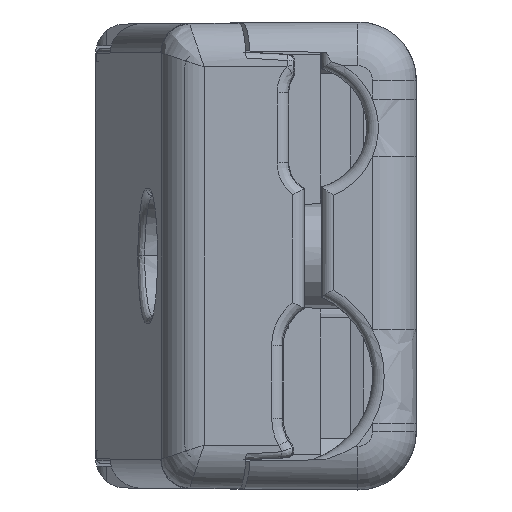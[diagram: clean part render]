
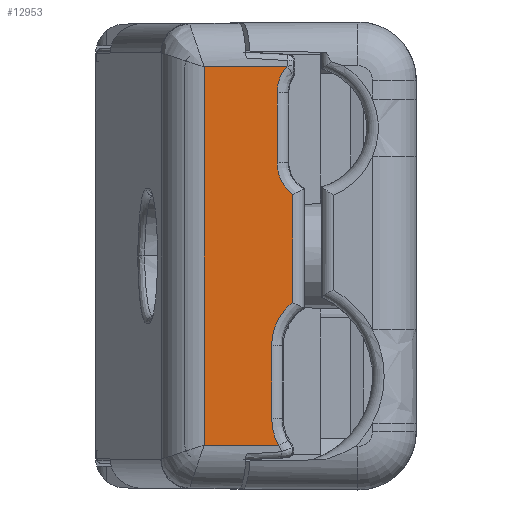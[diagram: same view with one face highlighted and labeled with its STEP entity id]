
A CAD part, left-side view. The second image highlights one B-rep face of the part: STEP entity #12953.
In plain terms, the highlighted planar face has unit normal (-1, 0.009, 0) as drawn and (0, 0.009, -1) by its records, which use the part's own axes.
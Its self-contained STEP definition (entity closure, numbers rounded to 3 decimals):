
#945 = ORIENTED_EDGE ( 'NONE', *, *, #96952, .T. ) ;
#2914 = CARTESIAN_POINT ( 'NONE',  ( 13.02, -7.809, -20.235 ) ) ;
#3897 = LINE ( 'NONE', #71917, #69961 ) ;
#4650 = CARTESIAN_POINT ( 'NONE',  ( -6.4, -7.686, -20.234 ) ) ;
#4901 = CARTESIAN_POINT ( 'NONE',  ( 3.188, -8.748, -20.243 ) ) ;
#4978 = DIRECTION ( 'NONE',  ( 0., 0.009, -1. ) ) ;
#5295 = VECTOR ( 'NONE', #8590, 1000. ) ;
#5741 =( BOUNDED_CURVE ( )  B_SPLINE_CURVE ( 3, ( #40387, #102935, #58488, #4650 ),
 .UNSPECIFIED., .F., .F. ) 
 B_SPLINE_CURVE_WITH_KNOTS ( ( 4, 4 ),
 ( 2.242, 3.142 ),
 .UNSPECIFIED. ) 
 CURVE ( )  GEOMETRIC_REPRESENTATION_ITEM ( )  RATIONAL_B_SPLINE_CURVE ( ( 1., 0.934, 0.934, 1. ) ) 
 REPRESENTATION_ITEM ( '' )  );
#5837 = EDGE_CURVE ( 'NONE', #64869, #40263, #3897, .T. ) ;
#6697 = EDGE_CURVE ( 'NONE', #67425, #49825, #112043, .T. ) ;
#6928 = EDGE_CURVE ( 'NONE', #107639, #112058, #20645, .T. ) ;
#8590 = DIRECTION ( 'NONE',  ( 0.009, -1., -0.009 ) ) ;
#8667 = CARTESIAN_POINT ( 'NONE',  ( 4.978, -7.312, -20.23 ) ) ;
#9182 = VERTEX_POINT ( 'NONE', #72600 ) ;
#12598 = EDGE_CURVE ( 'NONE', #112058, #112233, #107175, .T. ) ;
#12953 = ADVANCED_FACE ( 'NONE', ( #66269 ), #85919, .T. ) ;
#13932 =( BOUNDED_CURVE ( )  B_SPLINE_CURVE ( 3, ( #107355, #8667, #80559, #26774 ),
 .UNSPECIFIED., .F., .F. ) 
 B_SPLINE_CURVE_WITH_KNOTS ( ( 4, 4 ),
 ( 3.142, 4.036 ),
 .UNSPECIFIED. ) 
 CURVE ( )  GEOMETRIC_REPRESENTATION_ITEM ( )  RATIONAL_B_SPLINE_CURVE ( ( 1., 0.934, 0.934, 1. ) ) 
 REPRESENTATION_ITEM ( '' )  );
#14996 = ORIENTED_EDGE ( 'NONE', *, *, #12598, .T. ) ;
#15037 = CARTESIAN_POINT ( 'NONE',  ( -11.2, -7.686, -20.234 ) ) ;
#18299 = EDGE_CURVE ( 'NONE', #112233, #64869, #13932, .T. ) ;
#20645 =( BOUNDED_CURVE ( )  B_SPLINE_CURVE ( 3, ( #2914, #83429, #38623, #65760 ),
 .UNSPECIFIED., .F., .F. ) 
 B_SPLINE_CURVE_WITH_KNOTS ( ( 4, 4 ),
 ( 2.627, 3.142 ),
 .UNSPECIFIED. ) 
 CURVE ( )  GEOMETRIC_REPRESENTATION_ITEM ( )  RATIONAL_B_SPLINE_CURVE ( ( 1., 0.978, 0.978, 1. ) ) 
 REPRESENTATION_ITEM ( '' )  );
#20822 = CARTESIAN_POINT ( 'NONE',  ( -12.975, -2.676, -20.19 ) ) ;
#21159 = ORIENTED_EDGE ( 'NONE', *, *, #62210, .T. ) ;
#21667 = EDGE_CURVE ( 'NONE', #36175, #9182, #95415, .T. ) ;
#26774 = CARTESIAN_POINT ( 'NONE',  ( 3.188, -8.748, -20.243 ) ) ;
#26785 = ORIENTED_EDGE ( 'NONE', *, *, #108660, .T. ) ;
#28656 = CARTESIAN_POINT ( 'NONE',  ( -4.208, -8.748, -20.243 ) ) ;
#30555 = VECTOR ( 'NONE', #55358, 1000. ) ;
#35359 = VECTOR ( 'NONE', #95169, 1000. ) ;
#36175 = VERTEX_POINT ( 'NONE', #20822 ) ;
#38464 = ORIENTED_EDGE ( 'NONE', *, *, #18299, .T. ) ;
#38623 = CARTESIAN_POINT ( 'NONE',  ( 11.809, -7.312, -20.23 ) ) ;
#40092 = CARTESIAN_POINT ( 'NONE',  ( -11.877, -7.686, -20.234 ) ) ;
#40263 = VERTEX_POINT ( 'NONE', #28656 ) ;
#40387 = CARTESIAN_POINT ( 'NONE',  ( -4.208, -8.748, -20.243 ) ) ;
#43267 = CARTESIAN_POINT ( 'NONE',  ( 13.02, -7.809, -20.235 ) ) ;
#46349 =( BOUNDED_CURVE ( )  B_SPLINE_CURVE ( 3, ( #66824, #40092, #112046, #58191 ),
 .UNSPECIFIED., .F., .F. ) 
 B_SPLINE_CURVE_WITH_KNOTS ( ( 4, 4 ),
 ( 3.142, 3.851 ),
 .UNSPECIFIED. ) 
 CURVE ( )  GEOMETRIC_REPRESENTATION_ITEM ( )  RATIONAL_B_SPLINE_CURVE ( ( 1., 0.958, 0.958, 1. ) ) 
 REPRESENTATION_ITEM ( '' )  );
#47721 = CARTESIAN_POINT ( 'NONE',  ( -11.841, -2.676, -20.19 ) ) ;
#48686 = ORIENTED_EDGE ( 'NONE', *, *, #21667, .T. ) ;
#49825 = VERTEX_POINT ( 'NONE', #15037 ) ;
#50125 = CARTESIAN_POINT ( 'NONE',  ( 6.15, -7.312, -20.23 ) ) ;
#52062 = DIRECTION ( 'NONE',  ( -1., 0., 0. ) ) ;
#53043 = CARTESIAN_POINT ( 'NONE',  ( -13.024, -8.365, -20.24 ) ) ;
#54483 = LINE ( 'NONE', #100188, #30555 ) ;
#55358 = DIRECTION ( 'NONE',  ( 0.009, 1., 0.009 ) ) ;
#57615 = ORIENTED_EDGE ( 'NONE', *, *, #6697, .T. ) ;
#58191 = CARTESIAN_POINT ( 'NONE',  ( -13.024, -8.365, -20.24 ) ) ;
#58359 = VERTEX_POINT ( 'NONE', #53043 ) ;
#58481 = CARTESIAN_POINT ( 'NONE',  ( -6.4, -7.686, -20.234 ) ) ;
#58488 = CARTESIAN_POINT ( 'NONE',  ( -5.531, -7.686, -20.234 ) ) ;
#58941 = ORIENTED_EDGE ( 'NONE', *, *, #104145, .T. ) ;
#62210 = EDGE_CURVE ( 'NONE', #9182, #107639, #76965, .T. ) ;
#64869 = VERTEX_POINT ( 'NONE', #4901 ) ;
#65760 = CARTESIAN_POINT ( 'NONE',  ( 11.15, -7.312, -20.23 ) ) ;
#66269 = FACE_OUTER_BOUND ( 'NONE', #116277, .T. ) ;
#66824 = CARTESIAN_POINT ( 'NONE',  ( -11.2, -7.686, -20.234 ) ) ;
#67425 = VERTEX_POINT ( 'NONE', #58481 ) ;
#68377 = CARTESIAN_POINT ( 'NONE',  ( -11.841, -7.312, -20.23 ) ) ;
#69961 = VECTOR ( 'NONE', #88811, 1000. ) ;
#71467 = VECTOR ( 'NONE', #110635, 1000. ) ;
#71917 = CARTESIAN_POINT ( 'NONE',  ( -4.668, -8.748, -20.243 ) ) ;
#72600 = CARTESIAN_POINT ( 'NONE',  ( 12.975, -2.676, -20.19 ) ) ;
#76859 = CARTESIAN_POINT ( 'NONE',  ( -11.841, -9.555, -20.25 ) ) ;
#76965 = LINE ( 'NONE', #107287, #5295 ) ;
#79712 = ORIENTED_EDGE ( 'NONE', *, *, #6928, .T. ) ;
#80559 = CARTESIAN_POINT ( 'NONE',  ( 3.921, -7.824, -20.235 ) ) ;
#82326 = AXIS2_PLACEMENT_3D ( 'NONE', #76859, #4978, #95023 ) ;
#83429 = CARTESIAN_POINT ( 'NONE',  ( 12.446, -7.482, -20.232 ) ) ;
#85919 = PLANE ( 'NONE',  #82326 ) ;
#88105 = VECTOR ( 'NONE', #52062, 1000. ) ;
#88811 = DIRECTION ( 'NONE',  ( -1., 0., 0. ) ) ;
#95023 = DIRECTION ( 'NONE',  ( 0., 1., 0.009 ) ) ;
#95169 = DIRECTION ( 'NONE',  ( -1., 0., 0. ) ) ;
#95415 = LINE ( 'NONE', #47721, #71467 ) ;
#96376 = CARTESIAN_POINT ( 'NONE',  ( 11.15, -7.312, -20.23 ) ) ;
#96952 = EDGE_CURVE ( 'NONE', #49825, #58359, #46349, .T. ) ;
#100188 = CARTESIAN_POINT ( 'NONE',  ( -12.97, -2.071, -20.185 ) ) ;
#101964 = ORIENTED_EDGE ( 'NONE', *, *, #5837, .T. ) ;
#102935 = CARTESIAN_POINT ( 'NONE',  ( -4.748, -8.065, -20.237 ) ) ;
#104145 = EDGE_CURVE ( 'NONE', #40263, #67425, #5741, .T. ) ;
#105917 = CARTESIAN_POINT ( 'NONE',  ( -11.841, -7.686, -20.234 ) ) ;
#107175 = LINE ( 'NONE', #68377, #35359 ) ;
#107287 = CARTESIAN_POINT ( 'NONE',  ( 13.033, -9.338, -20.248 ) ) ;
#107355 = CARTESIAN_POINT ( 'NONE',  ( 6.15, -7.312, -20.23 ) ) ;
#107639 = VERTEX_POINT ( 'NONE', #43267 ) ;
#108660 = EDGE_CURVE ( 'NONE', #58359, #36175, #54483, .T. ) ;
#110635 = DIRECTION ( 'NONE',  ( 1., 0., 0. ) ) ;
#112043 = LINE ( 'NONE', #105917, #88105 ) ;
#112046 = CARTESIAN_POINT ( 'NONE',  ( -12.511, -7.922, -20.236 ) ) ;
#112058 = VERTEX_POINT ( 'NONE', #96376 ) ;
#112233 = VERTEX_POINT ( 'NONE', #50125 ) ;
#116277 = EDGE_LOOP ( 'NONE', ( #21159, #79712, #14996, #38464, #101964, #58941, #57615, #945, #26785, #48686 ) ) ;
